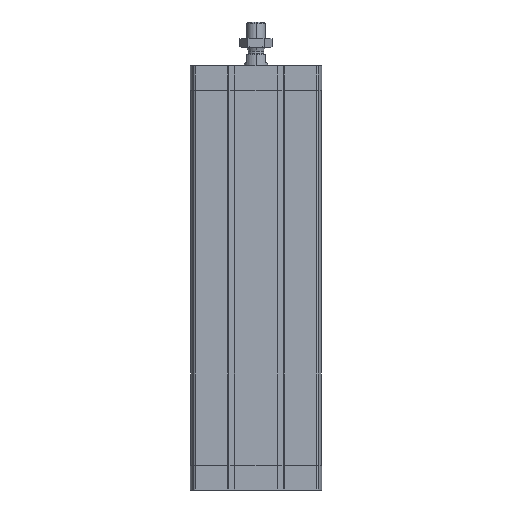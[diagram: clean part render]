
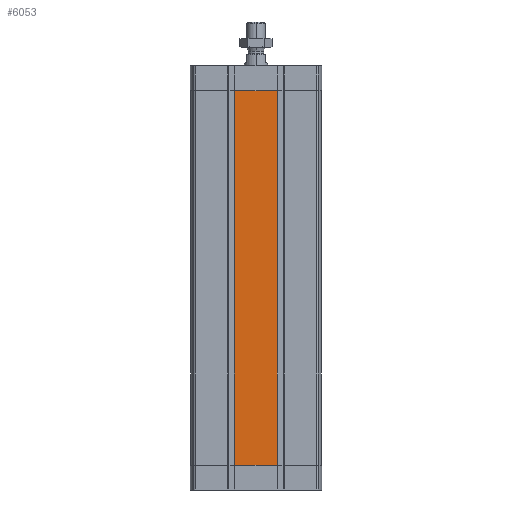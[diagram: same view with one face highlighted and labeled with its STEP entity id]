
A CAD part, left-side view. The second image highlights one B-rep face of the part: STEP entity #6053.
In plain terms, the highlighted planar face has unit normal (-1, 0, 0).
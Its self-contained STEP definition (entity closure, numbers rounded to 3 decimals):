
#309 = FACE_OUTER_BOUND ( 'NONE', #6104, .T. ) ;
#1009 = VERTEX_POINT ( 'NONE', #10554 ) ;
#1083 = DIRECTION ( 'NONE',  ( 0., 0., 1. ) ) ;
#1666 = CARTESIAN_POINT ( 'NONE',  ( -56.5, 18.345, -21.5 ) ) ;
#2135 = DIRECTION ( 'NONE',  ( -1., 0., 0. ) ) ;
#2144 = VERTEX_POINT ( 'NONE', #11988 ) ;
#2790 = EDGE_CURVE ( 'NONE', #2144, #13667, #9442, .T. ) ;
#3742 = DIRECTION ( 'NONE',  ( 0., 0., 1. ) ) ;
#5102 = ORIENTED_EDGE ( 'NONE', *, *, #2790, .F. ) ;
#6043 = LINE ( 'NONE', #6147, #16198 ) ;
#6053 = ADVANCED_FACE ( 'NONE', ( #309 ), #20073, .T. ) ;
#6104 = EDGE_LOOP ( 'NONE', ( #7140, #5102, #18694, #10310 ) ) ;
#6147 = CARTESIAN_POINT ( 'NONE',  ( -56.5, 18.345, -345.5 ) ) ;
#6749 = EDGE_CURVE ( 'NONE', #13667, #19496, #9698, .T. ) ;
#6759 = LINE ( 'NONE', #13307, #11537 ) ;
#7140 = ORIENTED_EDGE ( 'NONE', *, *, #6749, .F. ) ;
#7232 = CARTESIAN_POINT ( 'NONE',  ( -56.5, -18.345, -21.5 ) ) ;
#9256 = DIRECTION ( 'NONE',  ( 0., -1., 0. ) ) ;
#9442 = LINE ( 'NONE', #19223, #12142 ) ;
#9599 = DIRECTION ( 'NONE',  ( 0., -1., 0. ) ) ;
#9698 = LINE ( 'NONE', #1666, #19362 ) ;
#10310 = ORIENTED_EDGE ( 'NONE', *, *, #15577, .T. ) ;
#10554 = CARTESIAN_POINT ( 'NONE',  ( -56.5, -18.345, -345.5 ) ) ;
#11537 = VECTOR ( 'NONE', #15031, 1000. ) ;
#11988 = CARTESIAN_POINT ( 'NONE',  ( -56.5, 18.345, -345.5 ) ) ;
#12142 = VECTOR ( 'NONE', #1083, 1000. ) ;
#12687 = CARTESIAN_POINT ( 'NONE',  ( -56.5, 18.345, -21.5 ) ) ;
#13307 = CARTESIAN_POINT ( 'NONE',  ( -56.5, -18.345, -345.5 ) ) ;
#13648 = EDGE_CURVE ( 'NONE', #2144, #1009, #6043, .T. ) ;
#13667 = VERTEX_POINT ( 'NONE', #12687 ) ;
#15031 = DIRECTION ( 'NONE',  ( 0., 0., 1. ) ) ;
#15122 = CARTESIAN_POINT ( 'NONE',  ( -56.5, 18.345, -345.5 ) ) ;
#15577 = EDGE_CURVE ( 'NONE', #1009, #19496, #6759, .T. ) ;
#16198 = VECTOR ( 'NONE', #9256, 1000. ) ;
#16261 = AXIS2_PLACEMENT_3D ( 'NONE', #15122, #2135, #3742 ) ;
#18694 = ORIENTED_EDGE ( 'NONE', *, *, #13648, .T. ) ;
#19223 = CARTESIAN_POINT ( 'NONE',  ( -56.5, 18.345, -345.5 ) ) ;
#19362 = VECTOR ( 'NONE', #9599, 1000. ) ;
#19496 = VERTEX_POINT ( 'NONE', #7232 ) ;
#20073 = PLANE ( 'NONE',  #16261 ) ;
